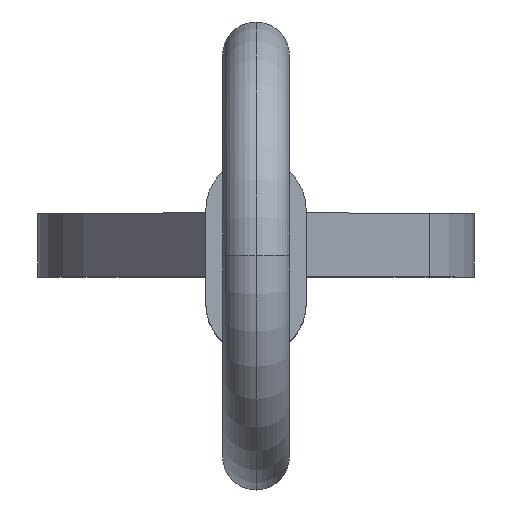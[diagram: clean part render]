
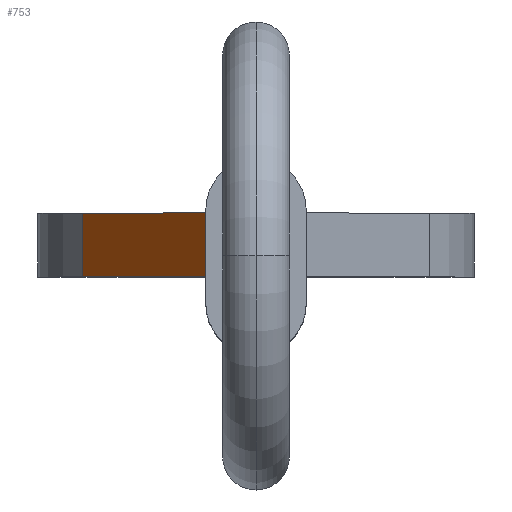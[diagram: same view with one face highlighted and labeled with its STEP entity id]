
A CAD part, top view. The second image highlights one B-rep face of the part: STEP entity #753.
In plain terms, the highlighted planar face has unit normal (-0.794, 0, 0.608).
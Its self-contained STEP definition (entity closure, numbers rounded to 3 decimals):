
#1 = VERTEX_POINT ( 'NONE', #400 ) ;
#26 = LINE ( 'NONE', #811, #736 ) ;
#58 = CARTESIAN_POINT ( 'NONE',  ( -4.132, 0.325, -13.835 ) ) ;
#68 = VERTEX_POINT ( 'NONE', #835 ) ;
#92 = DIRECTION ( 'NONE',  ( 0., -1., 0. ) ) ;
#185 = CARTESIAN_POINT ( 'NONE',  ( -4.132, -1.195, -13.835 ) ) ;
#199 = AXIS2_PLACEMENT_3D ( 'NONE', #434, #738, #523 ) ;
#219 = FACE_OUTER_BOUND ( 'NONE', #466, .T. ) ;
#268 = EDGE_CURVE ( 'NONE', #68, #822, #657, .T. ) ;
#271 = CARTESIAN_POINT ( 'NONE',  ( -4.132, 0.325, -13.835 ) ) ;
#279 = CARTESIAN_POINT ( 'NONE',  ( -1.195, 0., -10. ) ) ;
#284 = VECTOR ( 'NONE', #325, 1000. ) ;
#313 = LINE ( 'NONE', #58, #798 ) ;
#325 = DIRECTION ( 'NONE',  ( -0.608, 0., -0.794 ) ) ;
#357 = EDGE_CURVE ( 'NONE', #822, #945, #313, .T. ) ;
#400 = CARTESIAN_POINT ( 'NONE',  ( -1.195, -1.195, -10. ) ) ;
#405 = CARTESIAN_POINT ( 'NONE',  ( -4.132, 0.325, -13.835 ) ) ;
#434 = CARTESIAN_POINT ( 'NONE',  ( -4.132, 0.325, -13.835 ) ) ;
#464 = ORIENTED_EDGE ( 'NONE', *, *, #268, .T. ) ;
#466 = EDGE_LOOP ( 'NONE', ( #903, #721, #492, #464, #982 ) ) ;
#480 = CARTESIAN_POINT ( 'NONE',  ( -1.195, 0.325, -10. ) ) ;
#492 = ORIENTED_EDGE ( 'NONE', *, *, #594, .F. ) ;
#523 = DIRECTION ( 'NONE',  ( 0.608, 0., 0.794 ) ) ;
#564 = LINE ( 'NONE', #480, #602 ) ;
#594 = EDGE_CURVE ( 'NONE', #68, #691, #564, .T. ) ;
#602 = VECTOR ( 'NONE', #92, 1000. ) ;
#638 = CARTESIAN_POINT ( 'NONE',  ( -4.132, -1.195, -13.835 ) ) ;
#657 = LINE ( 'NONE', #271, #935 ) ;
#672 = PLANE ( 'NONE',  #199 ) ;
#691 = VERTEX_POINT ( 'NONE', #279 ) ;
#721 = ORIENTED_EDGE ( 'NONE', *, *, #993, .T. ) ;
#734 = DIRECTION ( 'NONE',  ( 0., 1., 0. ) ) ;
#736 = VECTOR ( 'NONE', #734, 1000. ) ;
#738 = DIRECTION ( 'NONE',  ( -0.794, 0., 0.608 ) ) ;
#753 = ADVANCED_FACE ( 'NONE', ( #219 ), #672, .T. ) ;
#772 = DIRECTION ( 'NONE',  ( 0., -1., 0. ) ) ;
#798 = VECTOR ( 'NONE', #772, 1000. ) ;
#811 = CARTESIAN_POINT ( 'NONE',  ( -1.195, -1.195, -10. ) ) ;
#822 = VERTEX_POINT ( 'NONE', #405 ) ;
#835 = CARTESIAN_POINT ( 'NONE',  ( -1.195, 0.325, -10. ) ) ;
#869 = LINE ( 'NONE', #638, #284 ) ;
#903 = ORIENTED_EDGE ( 'NONE', *, *, #1000, .F. ) ;
#935 = VECTOR ( 'NONE', #984, 1000. ) ;
#945 = VERTEX_POINT ( 'NONE', #185 ) ;
#982 = ORIENTED_EDGE ( 'NONE', *, *, #357, .T. ) ;
#984 = DIRECTION ( 'NONE',  ( -0.608, 0., -0.794 ) ) ;
#993 = EDGE_CURVE ( 'NONE', #1, #691, #26, .T. ) ;
#1000 = EDGE_CURVE ( 'NONE', #1, #945, #869, .T. ) ;
